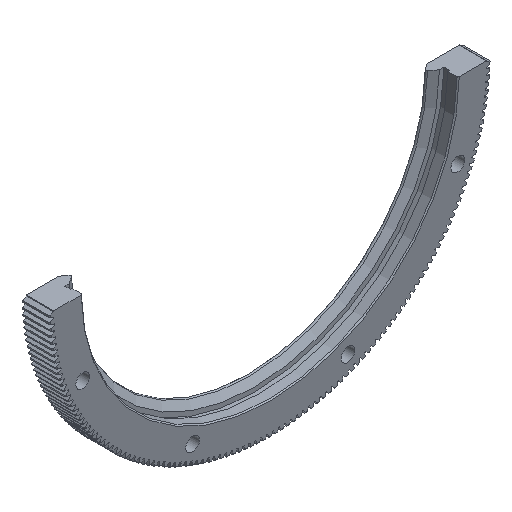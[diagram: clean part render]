
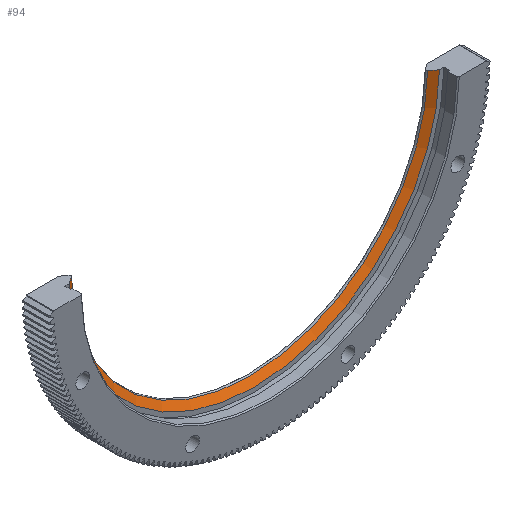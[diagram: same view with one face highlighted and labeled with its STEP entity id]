
A CAD part, isometric view. The second image highlights one B-rep face of the part: STEP entity #94.
In plain terms, the highlighted conical face has half-angle 55 degrees and reference radius 64.921 mm.
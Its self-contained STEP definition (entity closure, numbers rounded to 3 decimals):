
#94=ADVANCED_FACE('',(#800),#801,.F.);
#800=FACE_OUTER_BOUND('',#2228,.T.);
#801=CONICAL_SURFACE('',#2229,64.921,0.96);
#2228=EDGE_LOOP('',(#3668,#3669,#3670,#3671));
#2229=AXIS2_PLACEMENT_3D('',#3672,#3673,#3674);
#3668=ORIENTED_EDGE('',*,*,#9949,.T.);
#3669=ORIENTED_EDGE('',*,*,#9939,.T.);
#3670=ORIENTED_EDGE('',*,*,#9950,.F.);
#3671=ORIENTED_EDGE('',*,*,#9951,.T.);
#3672=CARTESIAN_POINT('',(0.0,7.576,0.0));
#3673=DIRECTION('',(0.0,-1.0,-0.0));
#3674=DIRECTION('',(0.0,0.0,-1.0));
#9939=EDGE_CURVE('',#12027,#12024,#12028,.T.);
#9949=EDGE_CURVE('',#12046,#12027,#12047,.T.);
#9950=EDGE_CURVE('',#12048,#12024,#12049,.T.);
#9951=EDGE_CURVE('',#12048,#12046,#12050,.T.);
#12024=VERTEX_POINT('',#15506);
#12027=VERTEX_POINT('',#15516);
#12028=B_SPLINE_CURVE_WITH_KNOTS('',3,(#15517,#15518,#15519,#15520),.UNSPECIFIED.,.F.,.F.,(4,4),(0.099,0.102),.UNSPECIFIED.);
#12046=VERTEX_POINT('',#15551);
#12047=CIRCLE('',#15552,67.457);
#12048=VERTEX_POINT('',#15553);
#12049=CIRCLE('',#15554,64.921);
#12050=B_SPLINE_CURVE_WITH_KNOTS('',3,(#15555,#15556,#15557,#15558),.UNSPECIFIED.,.F.,.F.,(4,4),(0.259,0.262),.UNSPECIFIED.);
#15506=CARTESIAN_POINT('',(64.913,7.576,-1.0));
#15516=CARTESIAN_POINT('',(67.45,5.8,-1.0));
#15517=CARTESIAN_POINT('',(67.45,5.8,-1.0));
#15518=CARTESIAN_POINT('',(66.604,6.392,-1.0));
#15519=CARTESIAN_POINT('',(65.759,6.984,-1.0));
#15520=CARTESIAN_POINT('',(64.913,7.576,-1.0));
#15551=CARTESIAN_POINT('',(-67.45,5.8,-1.0));
#15552=AXIS2_PLACEMENT_3D('',#21195,#21196,#21197);
#15553=CARTESIAN_POINT('',(-64.913,7.576,-1.0));
#15554=AXIS2_PLACEMENT_3D('',#21198,#21199,#21200);
#15555=CARTESIAN_POINT('',(-64.913,7.576,-1.0));
#15556=CARTESIAN_POINT('',(-65.759,6.984,-1.0));
#15557=CARTESIAN_POINT('',(-66.604,6.392,-1.0));
#15558=CARTESIAN_POINT('',(-67.45,5.8,-1.0));
#21195=CARTESIAN_POINT('',(0.0,5.8,0.0));
#21196=DIRECTION('',(0.0,-1.0,0.0));
#21197=DIRECTION('',(0.0,0.0,-1.0));
#21198=CARTESIAN_POINT('',(0.0,7.576,0.0));
#21199=DIRECTION('',(0.0,-1.0,0.0));
#21200=DIRECTION('',(0.0,0.0,-1.0));
